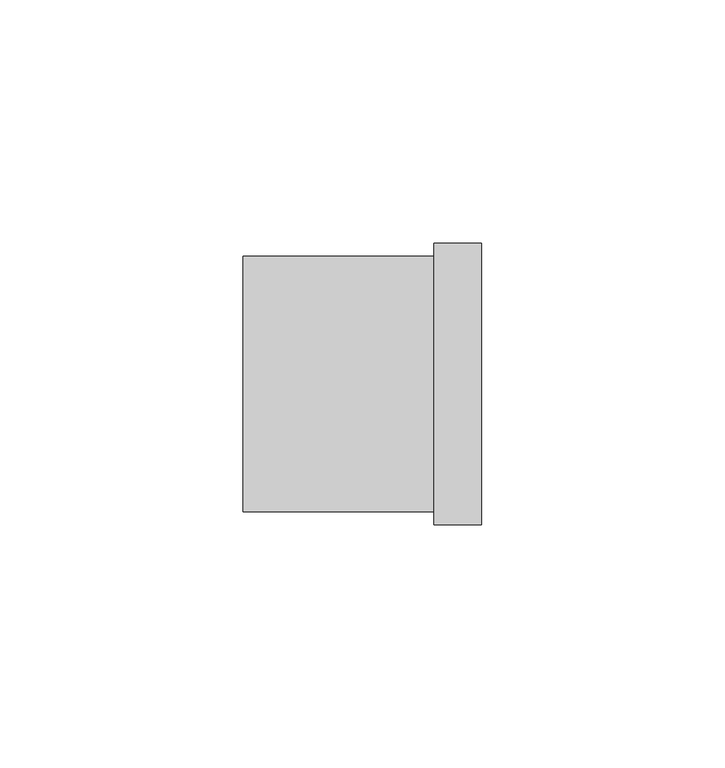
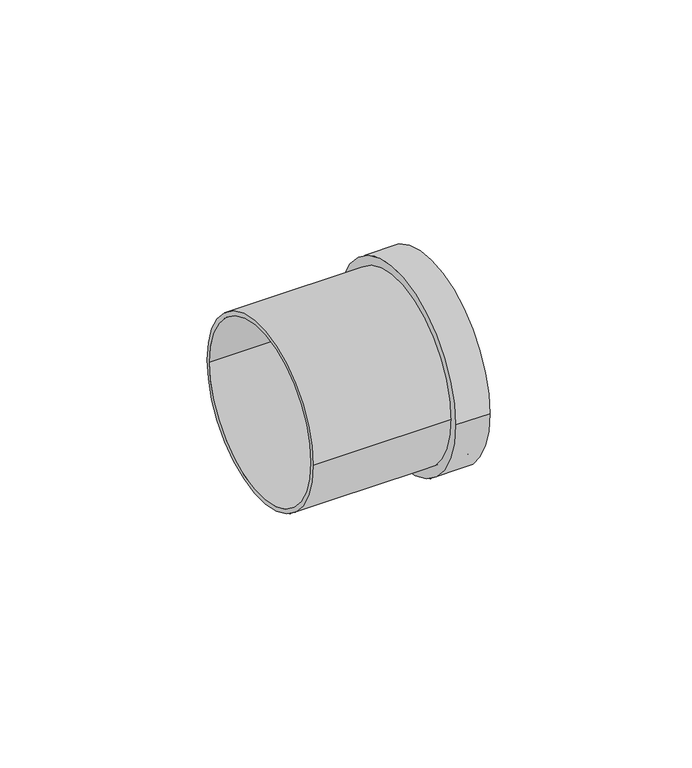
"""IFC4 building model written with IfcOpenShell, lengths in millimetres: pipe fitting geometry, Superdrain HT pipe socket : Superdrain HT pipe socket."""

from ifc_helpers import new_model, si_unit, point, frame, origin, origin_2d, place, context, project, spatial, circle_curve, trimmed, segment, composite_curve, outline, extrude, source, transform, mapped, element, save


def pipe_fitting_61a857b8(model_context):
    return source(origin(), model_context, "Body", "SweptSolid", [
        extrude(outline(composite_curve([segment(trimmed(circle_curve(origin_2d(), 26.25), [point((26.25, 0.0))], [point((-26.25, 0.0))], False, "CARTESIAN"), True, "CONTINUOUS"), segment(trimmed(circle_curve(origin_2d(), 26.25), [point((-26.25, 0.0))], [point((26.25, 0.0))], False, "CARTESIAN"), True, "CONTINUOUS")], self_intersect=False), holes=[composite_curve([segment(trimmed(circle_curve(origin_2d(), 25.0), [point((25.0, 0.0))], [point((-25.0, 0.0))], True, "CARTESIAN"), True, "CONTINUOUS"), segment(trimmed(circle_curve(origin_2d(), 25.0), [point((-25.0, 0.0))], [point((25.0, 0.0))], True, "CARTESIAN"), True, "CONTINUOUS")], self_intersect=False)]), frame((0.0, 0.0, 0.0), z_axis=(1.0, 0.0, 0.0), x_axis=(0.0, 1.0, 0.0)), (0.0, 0.0, 1.0), 49.0),
        extrude(outline(composite_curve([segment(trimmed(circle_curve(origin_2d(), 28.875), [point((28.875, 0.0))], [point((-28.875, 0.0))], False, "CARTESIAN"), True, "CONTINUOUS"), segment(trimmed(circle_curve(origin_2d(), 28.875), [point((-28.875, 0.0))], [point((28.875, 0.0))], False, "CARTESIAN"), True, "CONTINUOUS")], self_intersect=False), holes=[composite_curve([segment(trimmed(circle_curve(origin_2d(), 25.0), [point((25.0, 0.0))], [point((-25.0, 0.0))], True, "CARTESIAN"), True, "CONTINUOUS"), segment(trimmed(circle_curve(origin_2d(), 25.0), [point((-25.0, 0.0))], [point((25.0, 0.0))], True, "CARTESIAN"), True, "CONTINUOUS")], self_intersect=False)]), frame((39.2, 0.0, 0.0), z_axis=(1.0, 0.0, 0.0), x_axis=(0.0, 1.0, 0.0)), (0.0, 0.0, 1.0), 9.8),
    ])


if __name__ == "__main__":
    model = new_model("IFC4")
    model_context = context("Model", 3, world=origin())
    ifc_project = project(units=[si_unit("LENGTHUNIT", "METRE", prefix="MILLI")], contexts=[model_context])
    site = spatial("IfcSite", under=ifc_project)
    building = spatial("IfcBuilding", under=site)
    placement = place(None, origin())
    pipe_fitting_shape = pipe_fitting_61a857b8(model_context)
    element("IfcPipeFitting", 1, ObjectType="Superdrain HT pipe socket : Superdrain HT pipe socket", at=placement, inside=building, context=model_context, shape_type="MappedRepresentation", body=[
        mapped(pipe_fitting_shape, transform((0.0, 0.0, 0.0), x_axis=(1.0, 0.0, 0.0), y_axis=(0.0, 1.0, 0.0), z_axis=(0.0, 0.0, 1.0))),
    ])
    save(model, "model.ifc")
